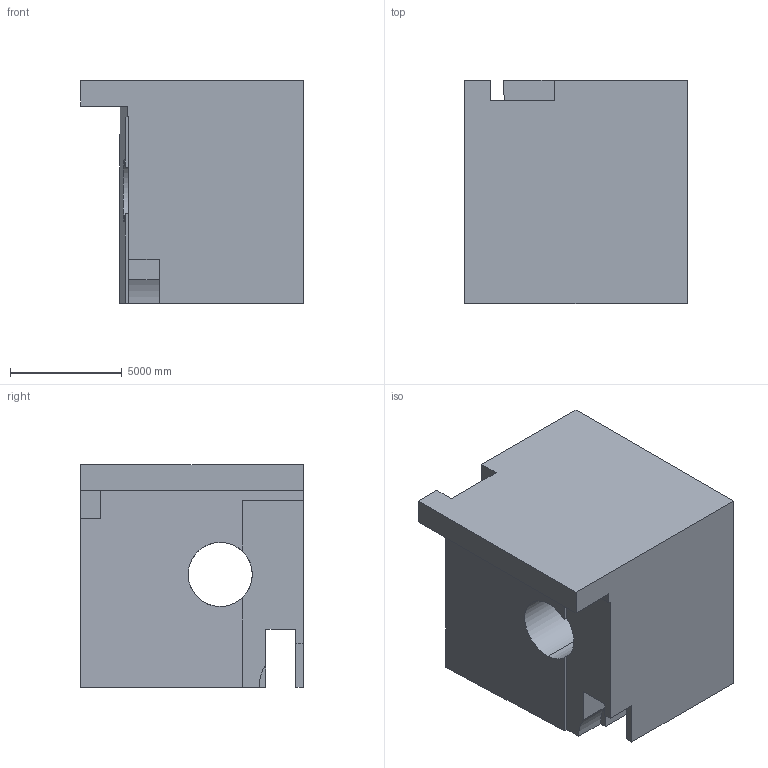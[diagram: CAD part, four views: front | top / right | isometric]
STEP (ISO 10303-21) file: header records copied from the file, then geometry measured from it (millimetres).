
FILE_DESCRIPTION (( 'STEP AP203' ), '1' );
FILE_NAME ('57.STEP', '2022-08-30T14:14:49', ( 'user' ), ( '' ), 'SwSTEP 2.0', 'SolidWorks 2021', '' );
FILE_SCHEMA (( 'CONFIG_CONTROL_DESIGN' ));
Length unit declared in the file: centimetre
Products named in the file (1): 57
Bounding box: 10000 x 10000 x 10000 mm (x, y, z)
Volume: 741022287720 mm3; surface area: 654911212 mm2
Topology: 1 solids, 1 shells, 27 faces, 78 edges, 52 vertices
Faces by surface type: plane 23, cylinder 4
Entity records: 960 total; most frequent: CARTESIAN_POINT 167, ORIENTED_EDGE 156, DIRECTION 138, EDGE_CURVE 78, LINE 68, VECTOR 68, VERTEX_POINT 52, AXIS2_PLACEMENT_3D 35
